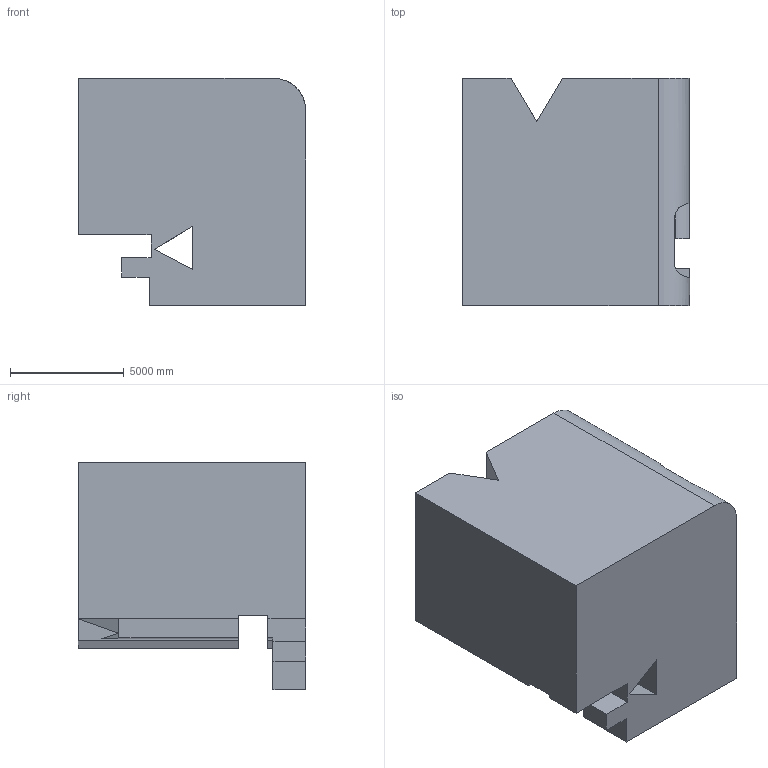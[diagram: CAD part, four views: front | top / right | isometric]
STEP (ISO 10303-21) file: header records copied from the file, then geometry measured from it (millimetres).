
FILE_DESCRIPTION (( 'STEP AP203' ), '1' );
FILE_NAME ('1958.STEP', '2022-08-23T09:58:13', ( 'user' ), ( '' ), 'SwSTEP 2.0', 'SolidWorks 2021', '' );
FILE_SCHEMA (( 'CONFIG_CONTROL_DESIGN' ));
Length unit declared in the file: centimetre
Products named in the file (1): 1958
Bounding box: 10000 x 10000 x 10000 mm (x, y, z)
Volume: 712787799220 mm3; surface area: 594912890.1 mm2
Topology: 1 solids, 1 shells, 52 faces, 153 edges, 102 vertices
Faces by surface type: plane 45, cylinder 7
Entity records: 2071 total; most frequent: CARTESIAN_POINT 600, ORIENTED_EDGE 306, DIRECTION 266, EDGE_CURVE 153, VECTOR 134, LINE 134, VERTEX_POINT 102, AXIS2_PLACEMENT_3D 66
